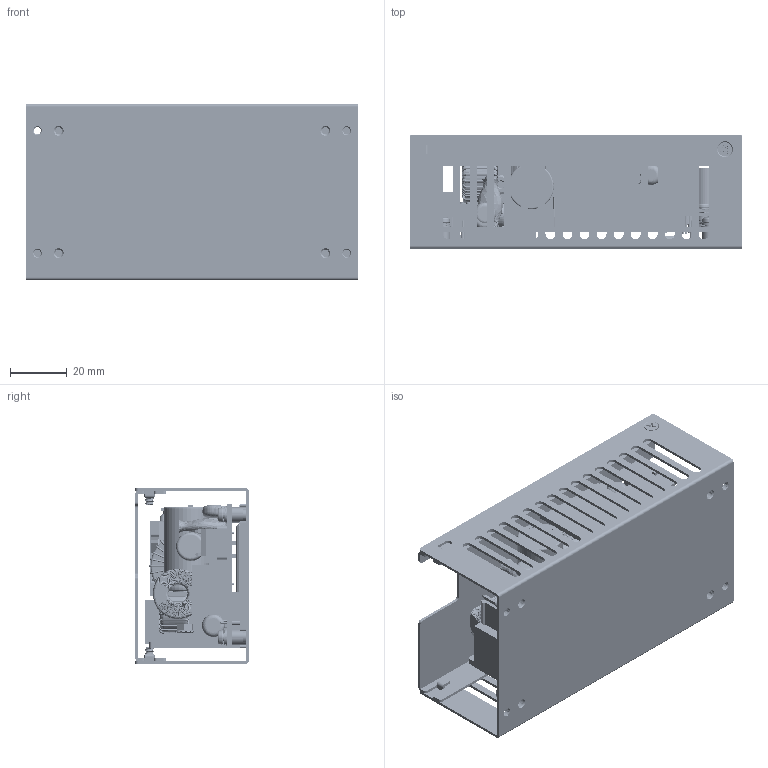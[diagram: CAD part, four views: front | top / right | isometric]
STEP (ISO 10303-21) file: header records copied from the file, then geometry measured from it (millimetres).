
FILE_DESCRIPTION (( 'STEP AP214' ), '1' );
FILE_NAME ('CFM200M(含金屬外殼)成品圖(01)-1060316.STEP', '2018-01-24T06:54:02', ( 'cincon' ), ( '' ), 'SwSTEP 2.0', 'SolidWorks 2008', '' );
FILE_SCHEMA (( 'AUTOMOTIVE_DESIGN' ));
Length unit declared in the file: millimetre
Products named in the file (36): 16.1mm電容; CFM200M 150W-L1-1060315_預設; CFM200M鋁板散熱片G6612180412 (M-B132-00-J)-1050623_預設; 金屬外殼下蓋(CFMXXX) 六角銅柱; CFM200M 陶瓷電容-1060315_預設; CFM80M L4 100,01,24; CFM200M FORMEX GK-17(轉摺)G612911A404-1050822_預設; 橋式整流器電晶體_預設; CORE-2-1041020; CORE-3-1031222; CFM200M PCB-1050606-B_預設; M3x8L螺絲(M-C449-00-S)G75A1100643(頭徑5.0)碩品; M3x6mm圓頭十字螺絲SMP+2W-1021126; C-1021126_預設; 3 PIN插座(2PIN)-1021126; 2inx4in金屬外殼上蓋(CFM200M) G6612250412 (M-B133-00-J)-1050616; CFM200M PCB-1041020-A_預設; CFM200M OPEN SPEC(01)-1060316_預設; 平頭十字螺絲 M3x6mm_預設; CFM200M CY3-1060315; 墊片A-1060315_預設; 螺母M3齒型華司-1030307; L5墊片-1060315_預設; CFM200M CY1-1060315; CFM200M CY2 106; CFM200M 電晶體(90度)-1041020_預設; CFM200M SO-10; OptoCoupler TLP521-2; CFM200M CY5-1060315 ; M3x6螺絲端子座示意圖 102,08,29; CFM200M-變壓器1_預設; CFM200M 2PIN插座(90度)-1041020; CFM200M(含金屬外殼)成品圖(01)-1060316; 2inx4in金屬外殼下蓋(CFM200M) G6612260412 (M-B134-01-J)-1051024; 2inx4in金屬外殼下蓋(CFM200M) G6612260412 (M-B134-01-J)-1051024_CASE
Assembly tree (49 placements, depth 3):
  CFM200M(含金屬外殼)成品圖(01)-1060316
    M3x6mm圓頭十字螺絲SMP+2W-1021126  x4
    2inx4in金屬外殼下蓋(CFM200M) G6612260412 (M-B134-01-J)-1051024_CASE
      2inx4in金屬外殼下蓋(CFM200M) G6612260412 (M-B134-01-J)-1051024
      金屬外殼下蓋(CFMXXX) 六角銅柱  x4
    2inx4in金屬外殼上蓋(CFM200M) G6612250412 (M-B133-00-J)-1050616
    CFM200M CY5-1060315 
    CFM200M OPEN SPEC(01)-1060316_預設
      CFM200M PCB-1050606-B_預設
      橋式整流器電晶體_預設
      CFM200M 電晶體(90度)-1041020_預設
      CORE-2-1041020
      C-1021126_預設  x2
      M3x8L螺絲(M-C449-00-S)G75A1100643(頭徑5.0)碩品
      螺母M3齒型華司-1030307
      墊片A-1060315_預設
      CFM200M FORMEX GK-17(轉摺)G612911A404-1050822_預設
      L5墊片-1060315_預設
      CFM200M-變壓器1_預設
      CFM200M 陶瓷電容-1060315_預設
      CORE-3-1031222
      CFM200M CY5-1060315   x5
      3 PIN插座(2PIN)-1021126
      CFM200M CY1-1060315
      CFM200M CY2 106
      CFM200M 2PIN插座(90度)-1041020
      CFM80M L4 100,01,24
      CFM200M PCB-1041020-A_預設
      CFM200M 150W-L1-1060315_預設
      CFM200M SO-10
      M3x6螺絲端子座示意圖 102,08,29  x2
      CFM200M CY3-1060315
      OptoCoupler TLP521-2
      CFM200M鋁板散熱片G6612180412 (M-B132-00-J)-1050623_預設
      16.1mm電容
    平頭十字螺絲 M3x6mm_預設  x2
    CFM200M PCB-1041020-A_預設
Bounding box: 117 x 40 x 62 mm (x, y, z)
Volume: 113125 mm3; surface area: 134691 mm2
Topology: 61 solids, 63 shells, 7027 faces, 19911 edges, 12672 vertices
Faces by surface type: bspline 2987, plane 1694, cylinder 1682, torus 518, cone 146
Entity records: 336082 total; most frequent: CARTESIAN_POINT 165190, ORIENTED_EDGE 36054, DIRECTION 22349, EDGE_CURVE 18029, VERTEX_POINT 11441, AXIS2_PLACEMENT_3D 7992, EDGE_LOOP 6616, VECTOR 6365
